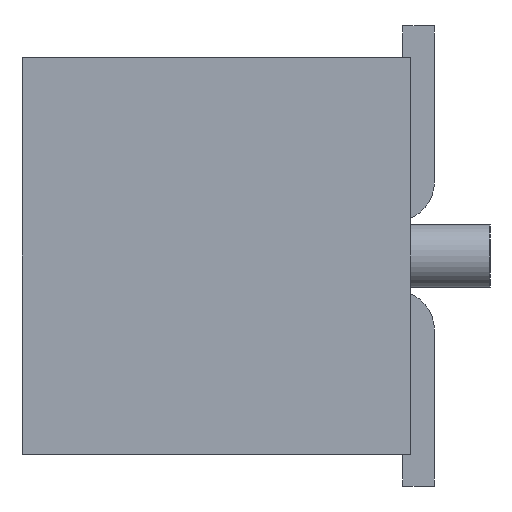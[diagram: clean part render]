
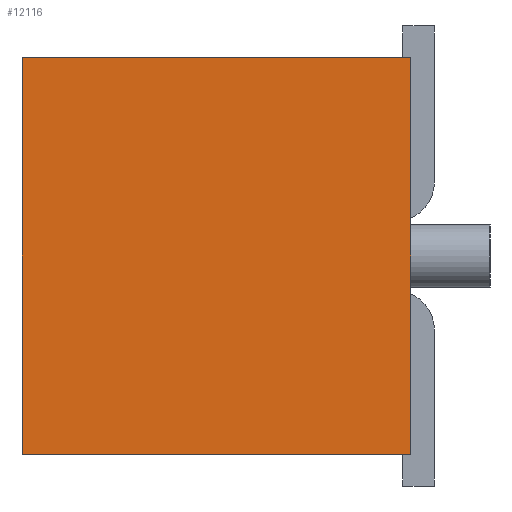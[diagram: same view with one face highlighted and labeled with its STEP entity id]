
A CAD part, left-side view. The second image highlights one B-rep face of the part: STEP entity #12116.
In plain terms, the highlighted planar face has unit normal (-1, 0, 0).
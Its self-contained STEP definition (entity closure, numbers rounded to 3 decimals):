
#622 = EDGE_CURVE ( 'NONE', #2120, #17720, #5232, .T. ) ;
#691 = DIRECTION ( 'NONE',  ( 1., 0., 0. ) ) ;
#840 = EDGE_CURVE ( 'NONE', #2120, #12288, #4214, .T. ) ;
#1503 = CARTESIAN_POINT ( 'NONE',  ( -8.974, 2.626, 2.5 ) ) ;
#2086 = CARTESIAN_POINT ( 'NONE',  ( -8.974, -2.274, -2.5 ) ) ;
#2120 = VERTEX_POINT ( 'NONE', #1503 ) ;
#3779 = EDGE_CURVE ( 'NONE', #17720, #11578, #18835, .T. ) ;
#4214 = LINE ( 'NONE', #11323, #5219 ) ;
#5219 = VECTOR ( 'NONE', #11125, 1000. ) ;
#5232 = LINE ( 'NONE', #20998, #10617 ) ;
#5295 = ORIENTED_EDGE ( 'NONE', *, *, #840, .F. ) ;
#5710 = VECTOR ( 'NONE', #17447, 1000. ) ;
#5788 = ORIENTED_EDGE ( 'NONE', *, *, #11331, .F. ) ;
#9116 = LINE ( 'NONE', #14097, #17592 ) ;
#9625 = PLANE ( 'NONE',  #12595 ) ;
#10587 = DIRECTION ( 'NONE',  ( 0., 0., -1. ) ) ;
#10617 = VECTOR ( 'NONE', #15634, 1000. ) ;
#11125 = DIRECTION ( 'NONE',  ( 0., -1., 0. ) ) ;
#11323 = CARTESIAN_POINT ( 'NONE',  ( -8.974, 2.626, 2.5 ) ) ;
#11331 = EDGE_CURVE ( 'NONE', #12288, #11578, #9116, .T. ) ;
#11475 = EDGE_LOOP ( 'NONE', ( #17052, #5788, #5295, #16195 ) ) ;
#11578 = VERTEX_POINT ( 'NONE', #2086 ) ;
#12116 = ADVANCED_FACE ( 'NONE', ( #18209 ), #9625, .F. ) ;
#12288 = VERTEX_POINT ( 'NONE', #15364 ) ;
#12595 = AXIS2_PLACEMENT_3D ( 'NONE', #21531, #691, #16526 ) ;
#14097 = CARTESIAN_POINT ( 'NONE',  ( -8.974, -2.274, 2.5 ) ) ;
#14907 = CARTESIAN_POINT ( 'NONE',  ( -8.974, 2.626, -2.5 ) ) ;
#15299 = CARTESIAN_POINT ( 'NONE',  ( -8.974, 2.626, -2.5 ) ) ;
#15364 = CARTESIAN_POINT ( 'NONE',  ( -8.974, -2.274, 2.5 ) ) ;
#15634 = DIRECTION ( 'NONE',  ( 0., 0., -1. ) ) ;
#16195 = ORIENTED_EDGE ( 'NONE', *, *, #622, .T. ) ;
#16526 = DIRECTION ( 'NONE',  ( 0., 1., 0. ) ) ;
#17052 = ORIENTED_EDGE ( 'NONE', *, *, #3779, .T. ) ;
#17447 = DIRECTION ( 'NONE',  ( 0., -1., 0. ) ) ;
#17592 = VECTOR ( 'NONE', #10587, 1000. ) ;
#17720 = VERTEX_POINT ( 'NONE', #14907 ) ;
#18209 = FACE_OUTER_BOUND ( 'NONE', #11475, .T. ) ;
#18835 = LINE ( 'NONE', #15299, #5710 ) ;
#20998 = CARTESIAN_POINT ( 'NONE',  ( -8.974, 2.626, 2.5 ) ) ;
#21531 = CARTESIAN_POINT ( 'NONE',  ( -8.974, 2.626, 2.5 ) ) ;
